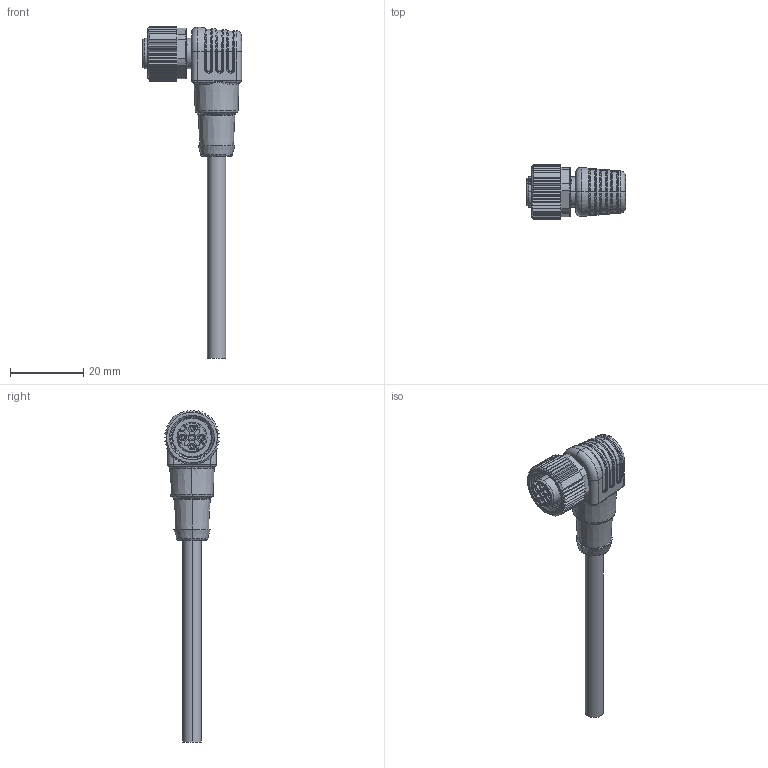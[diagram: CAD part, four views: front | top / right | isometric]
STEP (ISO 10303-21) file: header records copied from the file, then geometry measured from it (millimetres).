
FILE_DESCRIPTION (( 'STEP AP203' ), '1' );
FILE_NAME ('64S201-XXX.STEP', '2023-09-16T07:47:12', ( 'ADMIN' ), ( '' ), 'SwSTEP 2.0', 'SolidWorks 2016', '' );
FILE_SCHEMA (( 'CONFIG_CONTROL_DESIGN' ));
Length unit declared in the file: millimetre
Products named in the file (1): 64S201-XXX
Bounding box: 27 x 15 x 90.45 mm (x, y, z)
Volume: 6270.3 mm3; surface area: 4627.9 mm2
Topology: 1 solids, 2 shells, 1020 faces, 2912 edges, 1910 vertices
Faces by surface type: plane 373, cylinder 335, torus 133, bspline 107, cone 72
Entity records: 47315 total; most frequent: CARTESIAN_POINT 23728, ORIENTED_EDGE 5822, DIRECTION 3599, EDGE_CURVE 2911, VERTEX_POINT 1910, B_SPLINE_CURVE_WITH_KNOTS 1550, AXIS2_PLACEMENT_3D 1346, EDGE_LOOP 1051
